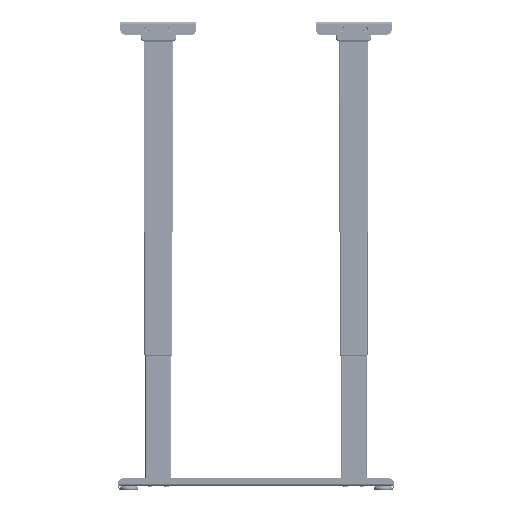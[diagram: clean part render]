
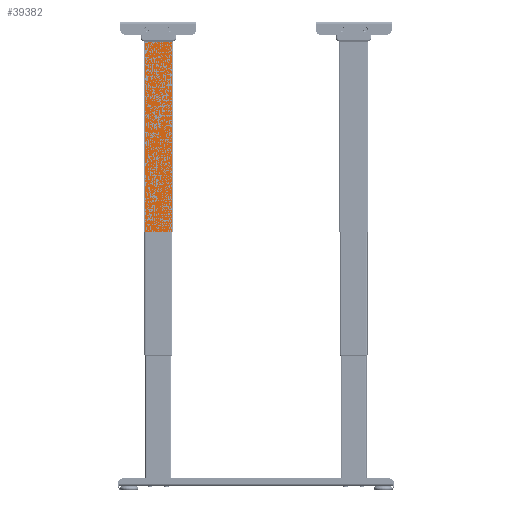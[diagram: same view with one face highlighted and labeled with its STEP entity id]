
A CAD part, left-side view. The second image highlights one B-rep face of the part: STEP entity #39382.
In plain terms, the highlighted planar face has unit normal (-1, 0, 0) as drawn and (1, 0, 0) by its records, which use the part's own axes.
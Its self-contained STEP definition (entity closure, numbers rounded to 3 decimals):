
#1527=PLANE('',#44707);
#3220=LINE('',#62393,#6989);
#3244=LINE('',#62695,#7013);
#3245=LINE('',#62697,#7014);
#3246=LINE('',#62699,#7015);
#6989=VECTOR('',#50013,1000.);
#7013=VECTOR('',#50097,1000.);
#7014=VECTOR('',#50098,1000.);
#7015=VECTOR('',#50099,1000.);
#12573=ORIENTED_EDGE('',*,*,#23167,.F.);
#12574=ORIENTED_EDGE('',*,*,#23126,.T.);
#12575=ORIENTED_EDGE('',*,*,#23168,.F.);
#12576=ORIENTED_EDGE('',*,*,#23169,.F.);
#23126=EDGE_CURVE('',#28585,#28584,#3220,.T.);
#23167=EDGE_CURVE('',#28585,#28612,#3244,.T.);
#23168=EDGE_CURVE('',#28613,#28584,#3245,.T.);
#23169=EDGE_CURVE('',#28612,#28613,#3246,.T.);
#28584=VERTEX_POINT('',#62392);
#28585=VERTEX_POINT('',#62394);
#28612=VERTEX_POINT('',#62696);
#28613=VERTEX_POINT('',#62698);
#33635=EDGE_LOOP('',(#12573,#12574,#12575,#12576));
#36204=FACE_BOUND('',#33635,.T.);
#39382=ADVANCED_FACE('',(#36204),#1527,.T.);
#44707=AXIS2_PLACEMENT_3D('',#62694,#50095,#50096);
#50013=DIRECTION('',(0.,1.,0.));
#50095=DIRECTION('',(1.,0.,0.));
#50096=DIRECTION('',(0.,0.,1.));
#50097=DIRECTION('',(0.,0.,1.));
#50098=DIRECTION('',(0.,0.,-1.));
#50099=DIRECTION('',(0.,1.,0.));
#62392=CARTESIAN_POINT('',(-10.003,37.008,49.998));
#62393=CARTESIAN_POINT('',(-10.003,0.001,49.998));
#62394=CARTESIAN_POINT('',(-10.003,-36.992,49.998));
#62694=CARTESIAN_POINT('',(-10.003,0.008,324.628));
#62695=CARTESIAN_POINT('',(-10.003,-36.992,47.998));
#62696=CARTESIAN_POINT('',(-10.003,-36.992,566.003));
#62697=CARTESIAN_POINT('',(-10.003,37.008,566.003));
#62698=CARTESIAN_POINT('',(-10.003,37.008,566.003));
#62699=CARTESIAN_POINT('',(-10.003,-36.992,566.003));
